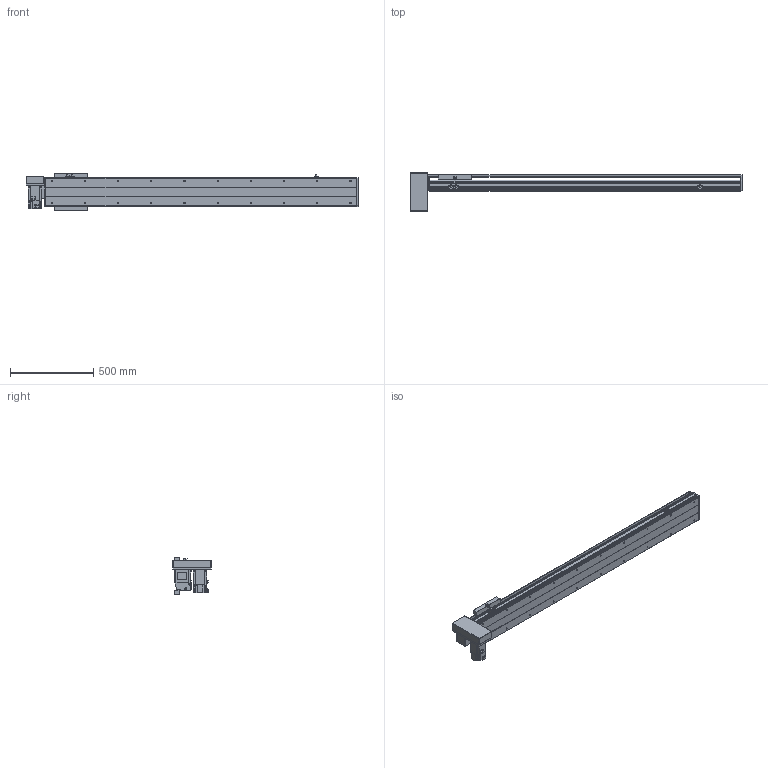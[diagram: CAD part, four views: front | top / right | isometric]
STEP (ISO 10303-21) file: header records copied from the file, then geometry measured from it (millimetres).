
FILE_DESCRIPTION(/* description */ ('STEP AP214'),/* implementation_level */ '2;1');
FILE_NAME(/* name */ 'PBS200-P40-S1500-RD-T75-C1-N(0)',/* time_stamp */ '2022-06-11T09:30:00+02:00',/* author */ ('License CC BY-ND 4.0'),/* organization */ ('CADENAS'),/* preprocessor_version */ 'ST-DEVELOPER v18.102',/* originating_system */ 'PARTsolutions',/* authorisation */ ' ');
FILE_SCHEMA (('AUTOMOTIVE_DESIGN {1 0 10303 214 3 1 1}'));
Length unit declared in the file: millimetre
Products named in the file (7): PBS200-P40-S1500-RD-T75-C1-N(0); PBS200_sensor; PBS200_plant; PBS200_sliser; T75-p1; PBS200T-RD_motors; PBS200-S1500()_body
Assembly tree (8 placements, depth 2):
  PBS200-P40-S1500-RD-T75-C1-N(0)
    PBS200_sensor  x3
    PBS200_plant
    PBS200_sliser
    T75-p1
    PBS200T-RD_motors
    PBS200-S1500()_body
Bounding box: 2000 x 230 x 221 mm (x, y, z)
Volume: 14359881 mm3; surface area: 2311592.3 mm2
Topology: 8 solids, 8 shells, 932 faces, 2394 edges, 1560 vertices
Faces by surface type: plane 578, cylinder 302, cone 52
Full cylindrical faces by diameter (mm): 2.459 x6, 3.242 x4, 4.5 x6, 4.917 x4, 5 x6, 6 x7, 6.6 x8, 6.647 x24, 8 x6, 10 x4, 12 x8, 38 x2, 40 x1, 70 x1
Entity records: 24821 total; most frequent: DIRECTION 4375, CARTESIAN_POINT 4228, ORIENTED_EDGE 4006, EDGE_CURVE 2003, AXIS2_PLACEMENT_3D 1531, VERTEX_POINT 1384, LINE 1313, VECTOR 1313
